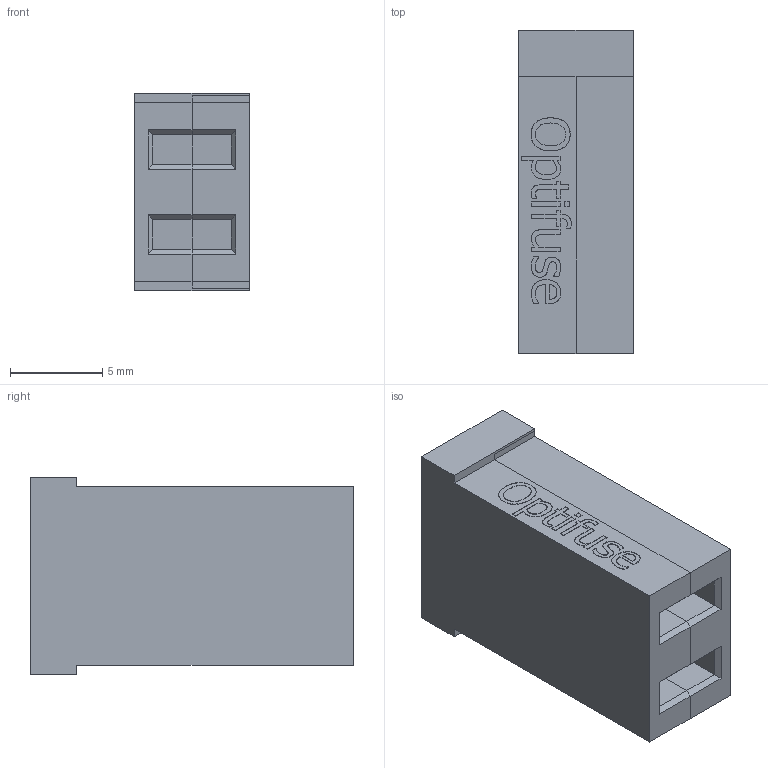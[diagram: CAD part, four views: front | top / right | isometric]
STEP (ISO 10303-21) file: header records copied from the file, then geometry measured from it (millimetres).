
FILE_DESCRIPTION(/* description */ (''),/* implementation_level */ '2;1');
FILE_NAME(/* name */ 'C:\Users\Hani\Desktop\work\New folder\FMX-M.stp',/* time_stamp */ '2021-10-16T13:02:33-07:00',/* author */ ('Hani'),/* organization */ (''),/* preprocessor_version */ 'ST-DEVELOPER v17',/* originating_system */ 'Autodesk Inventor 2019',/* authorisation */ '');
FILE_SCHEMA (('AUTOMOTIVE_DESIGN { 1 0 10303 214 3 1 1 }'));
Length unit declared in the file: inch
Products named in the file (1): FMX-M
Bounding box: 6.2 x 17.5 x 10.7 mm (x, y, z)
Volume: 1084.4 mm3; surface area: 1333.6 mm2
Topology: 5 solids, 5 shells, 198 faces, 520 edges, 344 vertices
Faces by surface type: plane 131, bspline 67
Entity records: 6657 total; most frequent: CARTESIAN_POINT 2135, ORIENTED_EDGE 1040, DIRECTION 650, EDGE_CURVE 520, LINE 386, VECTOR 386, VERTEX_POINT 344, EDGE_LOOP 210
